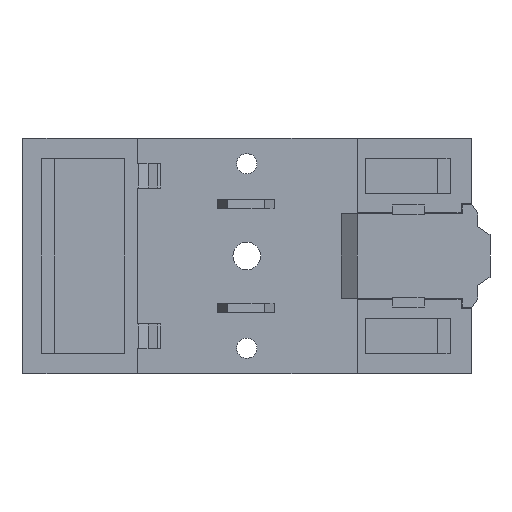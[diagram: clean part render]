
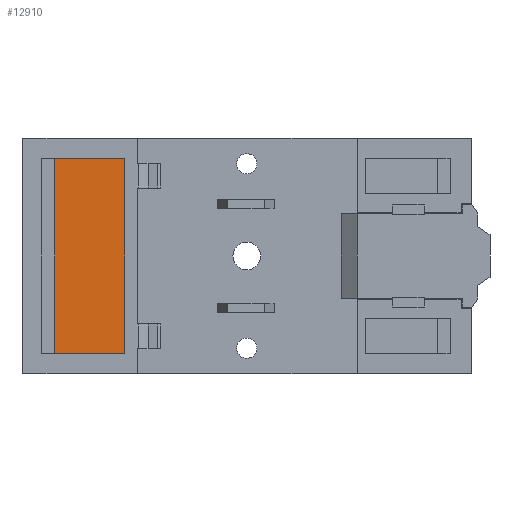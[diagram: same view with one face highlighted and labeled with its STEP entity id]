
A CAD part, front view. The second image highlights one B-rep face of the part: STEP entity #12910.
In plain terms, the highlighted planar face has unit normal (0, -1, 0).
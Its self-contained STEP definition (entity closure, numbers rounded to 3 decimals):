
#738=PLANE('',#14030);
#1367=FACE_OUTER_BOUND('',#2171,.T.);
#2171=EDGE_LOOP('',(#11628,#11629,#11630,#11631));
#3833=LINE('',#20893,#5178);
#3839=LINE('',#20905,#5184);
#3846=LINE('',#20920,#5191);
#3992=LINE('',#21288,#5337);
#5178=VECTOR('',#16936,1000.);
#5184=VECTOR('',#16946,1000.);
#5191=VECTOR('',#16961,1000.);
#5337=VECTOR('',#17353,1000.);
#6426=VERTEX_POINT('',#20889);
#6427=VERTEX_POINT('',#20891);
#6431=VERTEX_POINT('',#20902);
#6435=VERTEX_POINT('',#20918);
#8090=EDGE_CURVE('',#6426,#6427,#3833,.T.);
#8096=EDGE_CURVE('',#6431,#6426,#3839,.T.);
#8103=EDGE_CURVE('',#6427,#6435,#3846,.T.);
#8272=EDGE_CURVE('',#6431,#6435,#3992,.T.);
#11628=ORIENTED_EDGE('',*,*,#8272,.F.);
#11629=ORIENTED_EDGE('',*,*,#8096,.T.);
#11630=ORIENTED_EDGE('',*,*,#8090,.T.);
#11631=ORIENTED_EDGE('',*,*,#8103,.T.);
#12910=ADVANCED_FACE('',(#1367),#738,.F.);
#14030=AXIS2_PLACEMENT_3D('',#21287,#17351,#17352);
#16936=DIRECTION('',(0.,0.,1.));
#16946=DIRECTION('',(1.,0.,0.));
#16961=DIRECTION('',(-1.,0.,0.));
#17351=DIRECTION('center_axis',(0.,1.,0.));
#17352=DIRECTION('ref_axis',(0.,0.,1.));
#17353=DIRECTION('',(0.,0.,1.));
#20889=CARTESIAN_POINT('',(-19.85,-9.85,-15.85));
#20891=CARTESIAN_POINT('',(-19.85,-9.85,15.85));
#20893=CARTESIAN_POINT('',(-19.85,-9.85,15.85));
#20902=CARTESIAN_POINT('',(-31.25,-9.85,-15.85));
#20905=CARTESIAN_POINT('',(-19.85,-9.85,-15.85));
#20918=CARTESIAN_POINT('',(-31.25,-9.85,15.85));
#20920=CARTESIAN_POINT('',(-19.85,-9.85,15.85));
#21287=CARTESIAN_POINT('Origin',(-17.75,-9.85,19.15));
#21288=CARTESIAN_POINT('',(-31.25,-9.85,15.85));
